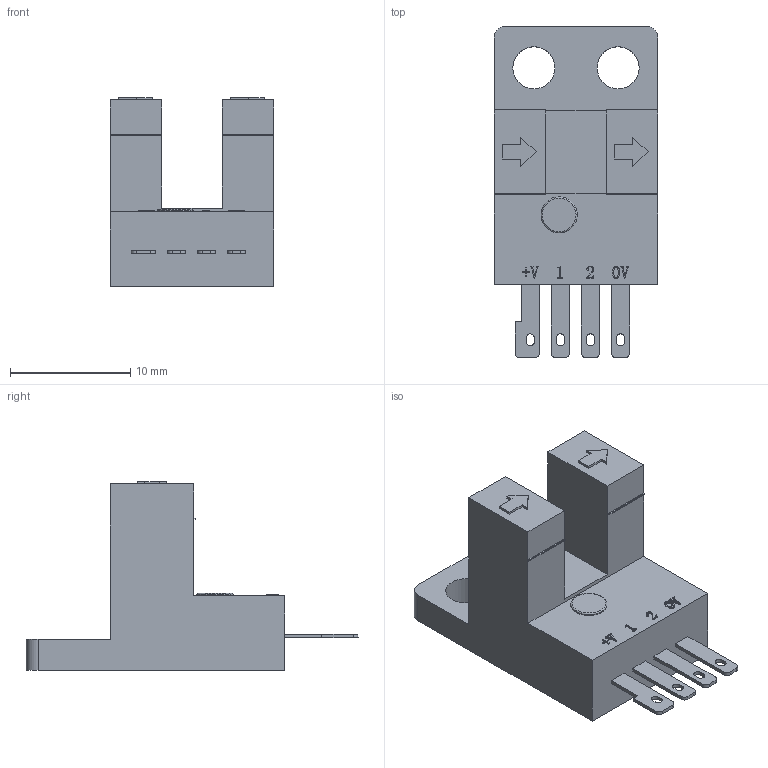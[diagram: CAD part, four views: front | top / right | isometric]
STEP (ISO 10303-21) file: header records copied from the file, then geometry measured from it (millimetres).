
FILE_DESCRIPTION (( 'STEP AP203' ), '1' );
FILE_NAME ('GE-SX674E.STEP', '2018-06-20T10:53:26', ( '' ), ( '' ), 'SwSTEP 2.0', 'SolidWorks 2016', '' );
FILE_SCHEMA (( 'CONFIG_CONTROL_DESIGN' ));
Length unit declared in the file: millimetre
Products named in the file (1): GE-SX674E
Bounding box: 13.6 x 27.59 x 15.7 mm (x, y, z)
Volume: 1998.4 mm3; surface area: 1508.7 mm2
Topology: 1 solids, 3 shells, 205 faces, 555 edges, 370 vertices
Faces by surface type: plane 148, bspline 35, cylinder 21, torus 1
Full cylindrical faces by diameter (mm): 3 x1, 3.5 x2
Entity records: 7962 total; most frequent: CARTESIAN_POINT 2912, ORIENTED_EDGE 1100, DIRECTION 865, EDGE_CURVE 550, VECTOR 437, LINE 437, VERTEX_POINT 369, EDGE_LOOP 235
